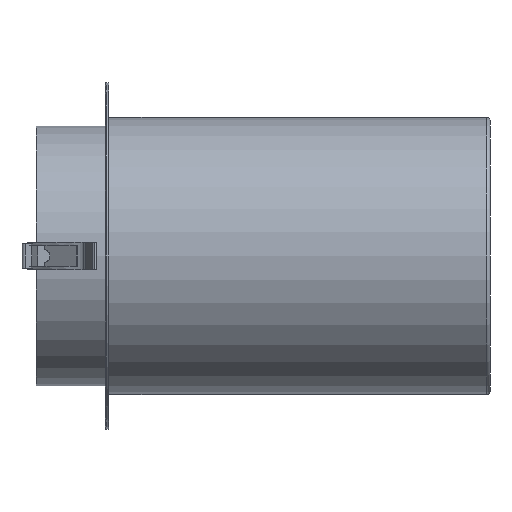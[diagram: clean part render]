
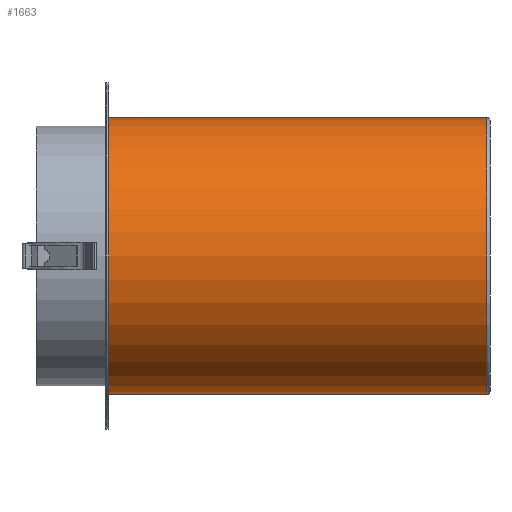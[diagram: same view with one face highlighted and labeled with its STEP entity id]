
A CAD part, left-side view. The second image highlights one B-rep face of the part: STEP entity #1663.
In plain terms, the highlighted cylindrical face has radius 40 mm (diameter 80 mm), a partial arc.
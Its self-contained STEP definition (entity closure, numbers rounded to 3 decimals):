
#218 = EDGE_CURVE ( 'NONE', #2098, #340, #1558, .T. ) ;
#340 = VERTEX_POINT ( 'NONE', #2431 ) ;
#425 = VERTEX_POINT ( 'NONE', #1694 ) ;
#730 = DIRECTION ( 'NONE',  ( 0., 1., 0. ) ) ;
#777 = ORIENTED_EDGE ( 'NONE', *, *, #1821, .F. ) ;
#842 = CARTESIAN_POINT ( 'NONE',  ( 0., -109., 0. ) ) ;
#880 = DIRECTION ( 'NONE',  ( 0., 1., 0. ) ) ;
#914 = VECTOR ( 'NONE', #2034, 1000. ) ;
#941 = CARTESIAN_POINT ( 'NONE',  ( 0., 0., -40. ) ) ;
#982 = LINE ( 'NONE', #2749, #2297 ) ;
#1102 = ORIENTED_EDGE ( 'NONE', *, *, #2484, .F. ) ;
#1179 = ORIENTED_EDGE ( 'NONE', *, *, #2898, .T. ) ;
#1558 = CIRCLE ( 'NONE', #1865, 40. ) ;
#1618 = DIRECTION ( 'NONE',  ( 0., 1., 0. ) ) ;
#1633 = LINE ( 'NONE', #2794, #914 ) ;
#1663 = ADVANCED_FACE ( 'NONE', ( #3105 ), #2084, .T. ) ;
#1694 = CARTESIAN_POINT ( 'NONE',  ( 0., 0., 40. ) ) ;
#1734 = CIRCLE ( 'NONE', #1785, 40. ) ;
#1785 = AXIS2_PLACEMENT_3D ( 'NONE', #3174, #880, #2177 ) ;
#1796 = ORIENTED_EDGE ( 'NONE', *, *, #218, .T. ) ;
#1821 = EDGE_CURVE ( 'NONE', #2659, #425, #1734, .T. ) ;
#1865 = AXIS2_PLACEMENT_3D ( 'NONE', #842, #1618, #2045 ) ;
#1999 = AXIS2_PLACEMENT_3D ( 'NONE', #3086, #2588, #2099 ) ;
#2034 = DIRECTION ( 'NONE',  ( 0., 1., 0. ) ) ;
#2045 = DIRECTION ( 'NONE',  ( 0., 0., 1. ) ) ;
#2084 = CYLINDRICAL_SURFACE ( 'NONE', #1999, 40. ) ;
#2098 = VERTEX_POINT ( 'NONE', #3162 ) ;
#2099 = DIRECTION ( 'NONE',  ( 0., 0., 1. ) ) ;
#2177 = DIRECTION ( 'NONE',  ( 0., 0., 1. ) ) ;
#2297 = VECTOR ( 'NONE', #730, 1000. ) ;
#2431 = CARTESIAN_POINT ( 'NONE',  ( 0., -109., 40. ) ) ;
#2444 = EDGE_LOOP ( 'NONE', ( #1102, #1796, #1179, #777 ) ) ;
#2484 = EDGE_CURVE ( 'NONE', #2098, #2659, #1633, .T. ) ;
#2588 = DIRECTION ( 'NONE',  ( 0., 1., 0. ) ) ;
#2659 = VERTEX_POINT ( 'NONE', #941 ) ;
#2749 = CARTESIAN_POINT ( 'NONE',  ( 0., -110., 40. ) ) ;
#2794 = CARTESIAN_POINT ( 'NONE',  ( 0., -110., -40. ) ) ;
#2898 = EDGE_CURVE ( 'NONE', #340, #425, #982, .T. ) ;
#3086 = CARTESIAN_POINT ( 'NONE',  ( 0., -110., 0. ) ) ;
#3105 = FACE_OUTER_BOUND ( 'NONE', #2444, .T. ) ;
#3162 = CARTESIAN_POINT ( 'NONE',  ( 0., -109., -40. ) ) ;
#3174 = CARTESIAN_POINT ( 'NONE',  ( 0., 0., 0. ) ) ;
